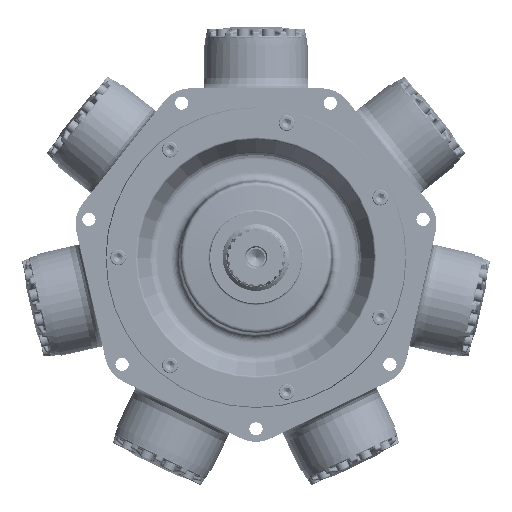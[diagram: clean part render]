
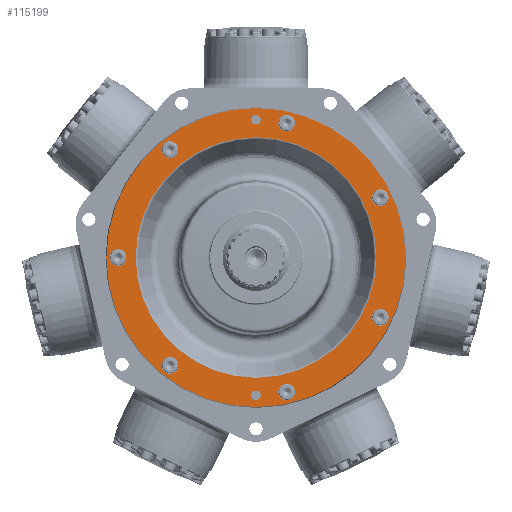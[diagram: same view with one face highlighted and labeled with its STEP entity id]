
A CAD part, top view. The second image highlights one B-rep face of the part: STEP entity #115199.
In plain terms, the highlighted planar face has unit normal (0, 0, 1).
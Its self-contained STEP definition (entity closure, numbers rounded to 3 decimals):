
#10680=FACE_BOUND('',#22799,.T.);
#10681=FACE_BOUND('',#22800,.T.);
#10682=FACE_BOUND('',#22801,.T.);
#10683=FACE_BOUND('',#22802,.T.);
#10684=FACE_BOUND('',#22803,.T.);
#10685=FACE_BOUND('',#22804,.T.);
#10686=FACE_BOUND('',#22805,.T.);
#10687=FACE_BOUND('',#22806,.T.);
#10688=FACE_BOUND('',#22807,.T.);
#10689=FACE_BOUND('',#22808,.T.);
#11865=PLANE('',#122911);
#15536=FACE_OUTER_BOUND('',#22798,.T.);
#22798=EDGE_LOOP('',(#82945));
#22799=EDGE_LOOP('',(#82946));
#22800=EDGE_LOOP('',(#82947));
#22801=EDGE_LOOP('',(#82948));
#22802=EDGE_LOOP('',(#82949));
#22803=EDGE_LOOP('',(#82950));
#22804=EDGE_LOOP('',(#82951));
#22805=EDGE_LOOP('',(#82952));
#22806=EDGE_LOOP('',(#82953));
#22807=EDGE_LOOP('',(#82954));
#22808=EDGE_LOOP('',(#82955));
#40665=CIRCLE('',#122907,182.808);
#40667=CIRCLE('',#122912,227.279);
#40668=CIRCLE('',#122913,7.176);
#40669=CIRCLE('',#122914,7.176);
#40670=CIRCLE('',#122915,12.7);
#40671=CIRCLE('',#122916,12.7);
#40672=CIRCLE('',#122917,12.7);
#40673=CIRCLE('',#122918,12.7);
#40674=CIRCLE('',#122919,12.7);
#40675=CIRCLE('',#122920,12.7);
#40676=CIRCLE('',#122921,12.7);
#47386=VERTEX_POINT('',#192076);
#47388=VERTEX_POINT('',#192085);
#47389=VERTEX_POINT('',#192087);
#47390=VERTEX_POINT('',#192089);
#47391=VERTEX_POINT('',#192091);
#47392=VERTEX_POINT('',#192093);
#47393=VERTEX_POINT('',#192095);
#47394=VERTEX_POINT('',#192097);
#47395=VERTEX_POINT('',#192099);
#47396=VERTEX_POINT('',#192101);
#47397=VERTEX_POINT('',#192103);
#59883=EDGE_CURVE('',#47386,#47386,#40665,.T.);
#59886=EDGE_CURVE('',#47388,#47388,#40667,.T.);
#59887=EDGE_CURVE('',#47389,#47389,#40668,.T.);
#59888=EDGE_CURVE('',#47390,#47390,#40669,.T.);
#59889=EDGE_CURVE('',#47391,#47391,#40670,.T.);
#59890=EDGE_CURVE('',#47392,#47392,#40671,.T.);
#59891=EDGE_CURVE('',#47393,#47393,#40672,.T.);
#59892=EDGE_CURVE('',#47394,#47394,#40673,.T.);
#59893=EDGE_CURVE('',#47395,#47395,#40674,.T.);
#59894=EDGE_CURVE('',#47396,#47396,#40675,.T.);
#59895=EDGE_CURVE('',#47397,#47397,#40676,.T.);
#82945=ORIENTED_EDGE('',*,*,#59886,.F.);
#82946=ORIENTED_EDGE('',*,*,#59887,.T.);
#82947=ORIENTED_EDGE('',*,*,#59888,.T.);
#82948=ORIENTED_EDGE('',*,*,#59889,.T.);
#82949=ORIENTED_EDGE('',*,*,#59890,.T.);
#82950=ORIENTED_EDGE('',*,*,#59891,.T.);
#82951=ORIENTED_EDGE('',*,*,#59892,.T.);
#82952=ORIENTED_EDGE('',*,*,#59893,.T.);
#82953=ORIENTED_EDGE('',*,*,#59894,.T.);
#82954=ORIENTED_EDGE('',*,*,#59895,.T.);
#82955=ORIENTED_EDGE('',*,*,#59883,.F.);
#115199=ADVANCED_FACE('',(#15536,#10680,#10681,#10682,#10683,#10684,#10685,
#10686,#10687,#10688,#10689),#11865,.T.);
#122907=AXIS2_PLACEMENT_3D('',#192078,#137622,#137623);
#122911=AXIS2_PLACEMENT_3D('',#192084,#137631,#137632);
#122912=AXIS2_PLACEMENT_3D('',#192086,#137633,#137634);
#122913=AXIS2_PLACEMENT_3D('',#192088,#137635,#137636);
#122914=AXIS2_PLACEMENT_3D('',#192090,#137637,#137638);
#122915=AXIS2_PLACEMENT_3D('',#192092,#137639,#137640);
#122916=AXIS2_PLACEMENT_3D('',#192094,#137641,#137642);
#122917=AXIS2_PLACEMENT_3D('',#192096,#137643,#137644);
#122918=AXIS2_PLACEMENT_3D('',#192098,#137645,#137646);
#122919=AXIS2_PLACEMENT_3D('',#192100,#137647,#137648);
#122920=AXIS2_PLACEMENT_3D('',#192102,#137649,#137650);
#122921=AXIS2_PLACEMENT_3D('',#192104,#137651,#137652);
#137622=DIRECTION('center_axis',(0.,0.,
1.));
#137623=DIRECTION('ref_axis',(1.,0.,0.));
#137631=DIRECTION('center_axis',(0.,0.,
1.));
#137632=DIRECTION('ref_axis',(0.,1.,0.));
#137633=DIRECTION('center_axis',(0.,0.,
-1.));
#137634=DIRECTION('ref_axis',(0.,1.,0.));
#137635=DIRECTION('center_axis',(0.,0.,
-1.));
#137636=DIRECTION('ref_axis',(1.,0.,0.));
#137637=DIRECTION('center_axis',(0.,0.,
-1.));
#137638=DIRECTION('ref_axis',(1.,0.,0.));
#137639=DIRECTION('center_axis',(0.,0.,
-1.));
#137640=DIRECTION('ref_axis',(-0.623,0.782,0.));
#137641=DIRECTION('center_axis',(0.,0.,
-1.));
#137642=DIRECTION('ref_axis',(0.223,0.975,0.));
#137643=DIRECTION('center_axis',(0.,0.,
-1.));
#137644=DIRECTION('ref_axis',(0.901,0.434,0.));
#137645=DIRECTION('center_axis',(0.,0.,
-1.));
#137646=DIRECTION('ref_axis',(0.901,-0.434,0.));
#137647=DIRECTION('center_axis',(0.,0.,
-1.));
#137648=DIRECTION('ref_axis',(0.223,-0.975,0.));
#137649=DIRECTION('center_axis',(0.,0.,
-1.));
#137650=DIRECTION('ref_axis',(-0.623,-0.782,0.));
#137651=DIRECTION('center_axis',(0.,0.,
-1.));
#137652=DIRECTION('ref_axis',(-1.,0.,0.));
#192076=CARTESIAN_POINT('',(0.,-182.808,123.104));
#192078=CARTESIAN_POINT('Origin',(0.,0.,
123.104));
#192084=CARTESIAN_POINT('Origin',(-206.375,0.,123.104));
#192085=CARTESIAN_POINT('',(0.,-227.279,123.104));
#192086=CARTESIAN_POINT('Origin',(0.,0.,
123.104));
#192087=CARTESIAN_POINT('',(-7.175,209.55,123.104));
#192088=CARTESIAN_POINT('Origin',(0.,209.55,123.104));
#192089=CARTESIAN_POINT('',(-7.176,-209.55,123.104));
#192090=CARTESIAN_POINT('Origin',(0.,-209.55,123.104));
#192091=CARTESIAN_POINT('',(-122.734,153.904,123.104));
#192092=CARTESIAN_POINT('Origin',(-130.652,163.833,123.104));
#192093=CARTESIAN_POINT('',(43.803,191.915,123.104));
#192094=CARTESIAN_POINT('Origin',(46.629,204.296,123.104));
#192095=CARTESIAN_POINT('',(177.356,85.41,123.104));
#192096=CARTESIAN_POINT('Origin',(188.798,90.92,123.104));
#192097=CARTESIAN_POINT('',(177.356,-85.41,123.104));
#192098=CARTESIAN_POINT('Origin',(188.798,-90.92,123.104));
#192099=CARTESIAN_POINT('',(43.803,-191.915,123.104));
#192100=CARTESIAN_POINT('Origin',(46.629,-204.296,123.104));
#192101=CARTESIAN_POINT('',(-122.734,-153.904,123.104));
#192102=CARTESIAN_POINT('Origin',(-130.652,-163.833,123.104));
#192103=CARTESIAN_POINT('',(-196.85,0.,123.104));
#192104=CARTESIAN_POINT('Origin',(-209.55,0.,123.104));
